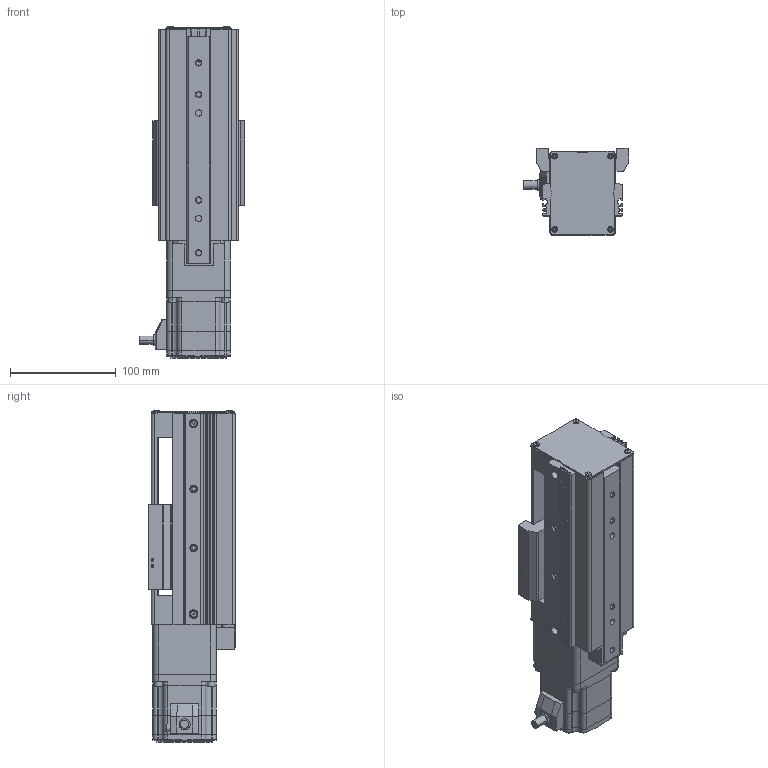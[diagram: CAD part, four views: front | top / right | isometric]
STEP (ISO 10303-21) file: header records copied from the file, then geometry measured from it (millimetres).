
FILE_DESCRIPTION (( 'STEP AP203' ), '1' );
FILE_NAME ('EASM6XD005ARAK.step', '2013-10-10T09:53:38', ( 'om' ), ( 'Hewlett-Packard Company' ), 'SwSTEP 2.0', 'SolidWorks 2011', '' );
FILE_SCHEMA (( 'CONFIG_CONTROL_DESIGN' ));
Length unit declared in the file: millimetre
Products named in the file (4): EASM6XD005ARAK; EASM6XD005ARAK_Table; EASM6XD005ARAK_BASE; EASM6XD005ARAK_Motor
Assembly tree (3 placements, depth 2):
  EASM6XD005ARAK
    EASM6XD005ARAK_Motor
    EASM6XD005ARAK_Table
    EASM6XD005ARAK_BASE
Bounding box: 99.5 x 83 x 314.5 mm (x, y, z)
Volume: 1128002 mm3; surface area: 231498.2 mm2
Topology: 3 solids, 14 shells, 1075 faces, 2826 edges, 1841 vertices
Faces by surface type: plane 628, cylinder 371, cone 54, torus 16, bspline 4, sphere 2
Entity records: 33824 total; most frequent: CARTESIAN_POINT 6304, DIRECTION 5671, ORIENTED_EDGE 5600, EDGE_CURVE 2800, VECTOR 1923, LINE 1923, AXIS2_PLACEMENT_3D 1874, VERTEX_POINT 1841
